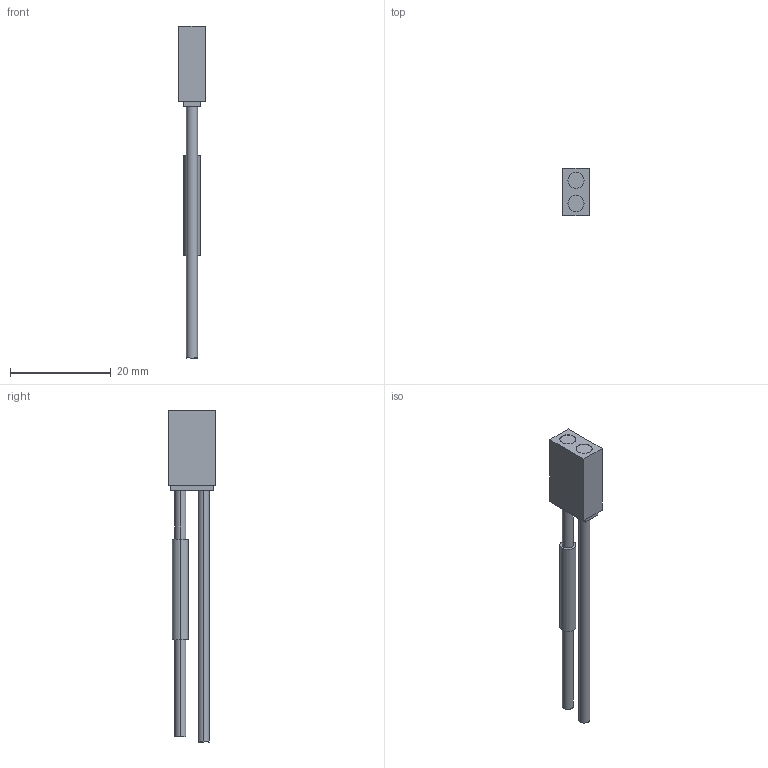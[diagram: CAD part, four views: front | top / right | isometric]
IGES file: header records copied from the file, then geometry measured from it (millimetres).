
Start section: SolidWorks IGES FILE using analytic representation for surfaces
Global section: file name: C:\Documents and Settings\yk0651\デスクトップ\3D_catalog_050904\0_IGES\FR-WKZ11.IGS; native system: SolidWorks 2004 by SolidWorks Corporation; preprocessor: Version 5.3; author: yk0651; date: 050904.223709; units: millimetre
Bounding box: 5.2 x 9.5 x 66 mm (x, y, z)
Volume: 1230.6 mm3; surface area: 1321.6 mm2
Topology: 1 solids, 1 shells, 29 faces, 60 edges, 40 vertices
Faces by surface type: plane 17, revolution 12
